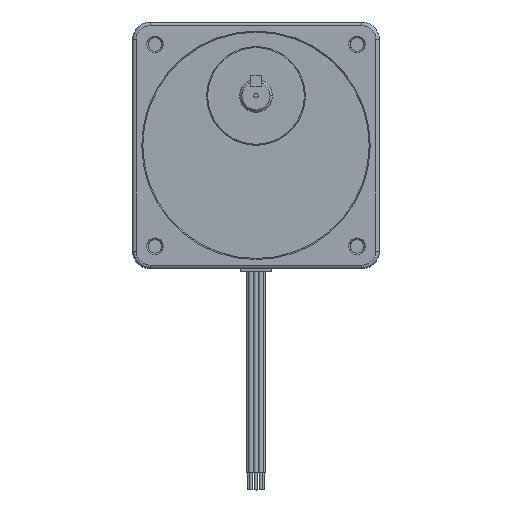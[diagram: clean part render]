
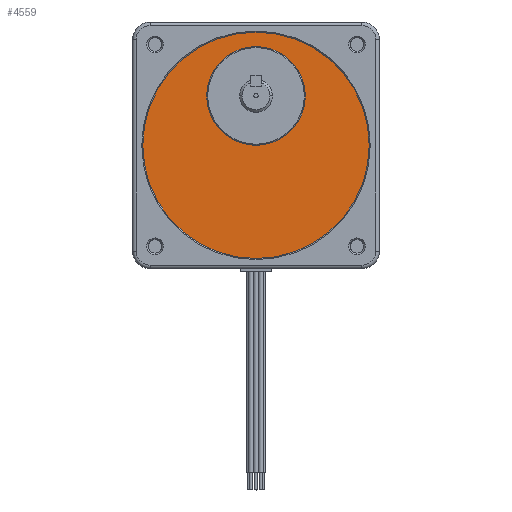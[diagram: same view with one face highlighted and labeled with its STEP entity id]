
A CAD part, top view. The second image highlights one B-rep face of the part: STEP entity #4559.
In plain terms, the highlighted planar face has unit normal (0, 0, 1).
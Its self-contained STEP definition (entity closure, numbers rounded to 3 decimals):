
#4331 = EDGE_CURVE ( 'NONE', #4428, #4426, #19922, .T. ) ;
#4334 = VERTEX_POINT ( 'NONE', #20194 ) ;
#4336 = EDGE_CURVE ( 'NONE', #4451, #4334, #20094, .T. ) ;
#4426 = VERTEX_POINT ( 'NONE', #14179 ) ;
#4428 = VERTEX_POINT ( 'NONE', #14194 ) ;
#4451 = VERTEX_POINT ( 'NONE', #14384 ) ;
#4527 = EDGE_CURVE ( 'NONE', #4426, #4428, #14570, .T. ) ;
#4559 = ADVANCED_FACE ( 'NONE', ( #14502, #14499 ), #14503, .T. ) ;
#4560 = EDGE_LOOP ( 'NONE', ( #4664, #4657 ) ) ;
#4601 = EDGE_LOOP ( 'NONE', ( #4603, #4602 ) ) ;
#4602 = ORIENTED_EDGE ( 'NONE', *, *, #4331, .F. ) ;
#4603 = ORIENTED_EDGE ( 'NONE', *, *, #4527, .F. ) ;
#4650 = EDGE_CURVE ( 'NONE', #4334, #4451, #14795, .T. ) ;
#4657 = ORIENTED_EDGE ( 'NONE', *, *, #4336, .T. ) ;
#4664 = ORIENTED_EDGE ( 'NONE', *, *, #4650, .T. ) ;
#14179 = CARTESIAN_POINT ( 'NONE',  ( -17.996, 18.009, 41.012 ) ) ;
#14194 = CARTESIAN_POINT ( 'NONE',  ( 17.996, 18.009, 41.012 ) ) ;
#14384 = CARTESIAN_POINT ( 'NONE',  ( -41.275, 0., 41.012 ) ) ;
#14469 = DIRECTION ( 'NONE',  ( 1., 0., 0. ) ) ;
#14470 = DIRECTION ( 'NONE',  ( 0., 0., 1. ) ) ;
#14485 = DIRECTION ( 'NONE',  ( 1., 0., 0. ) ) ;
#14497 = CARTESIAN_POINT ( 'NONE',  ( 0., 0., 41.012 ) ) ;
#14499 = FACE_BOUND ( 'NONE', #4601, .T. ) ;
#14502 = FACE_OUTER_BOUND ( 'NONE', #4560, .T. ) ;
#14503 = PLANE ( 'NONE',  #14560 ) ;
#14506 = DIRECTION ( 'NONE',  ( 0., 0., 1. ) ) ;
#14507 = CARTESIAN_POINT ( 'NONE',  ( 0., 18.009, 41.012 ) ) ;
#14560 = AXIS2_PLACEMENT_3D ( 'NONE', #14497, #14470, #14469 ) ;
#14570 = CIRCLE ( 'NONE', #14608, 17.996 ) ;
#14608 = AXIS2_PLACEMENT_3D ( 'NONE', #14507, #14506, #14485 ) ;
#14790 = DIRECTION ( 'NONE',  ( 1., 0., 0. ) ) ;
#14793 = DIRECTION ( 'NONE',  ( 0., 0., 1. ) ) ;
#14794 = AXIS2_PLACEMENT_3D ( 'NONE', #14800, #14793, #14790 ) ;
#14795 = CIRCLE ( 'NONE', #14794, 41.275 ) ;
#14800 = CARTESIAN_POINT ( 'NONE',  ( 0., 0., 41.012 ) ) ;
#19910 = CARTESIAN_POINT ( 'NONE',  ( 0., 18.009, 41.012 ) ) ;
#19918 = DIRECTION ( 'NONE',  ( 0., 0., 1. ) ) ;
#19922 = CIRCLE ( 'NONE', #19937, 17.996 ) ;
#19924 = DIRECTION ( 'NONE',  ( 1., 0., 0. ) ) ;
#19937 = AXIS2_PLACEMENT_3D ( 'NONE', #19910, #19918, #19924 ) ;
#20008 = DIRECTION ( 'NONE',  ( 1., 0., 0. ) ) ;
#20094 = CIRCLE ( 'NONE', #20098, 41.275 ) ;
#20096 = DIRECTION ( 'NONE',  ( 0., 0., 1. ) ) ;
#20097 = CARTESIAN_POINT ( 'NONE',  ( 0., 0., 41.012 ) ) ;
#20098 = AXIS2_PLACEMENT_3D ( 'NONE', #20097, #20096, #20008 ) ;
#20194 = CARTESIAN_POINT ( 'NONE',  ( 41.275, 0., 41.012 ) ) ;
